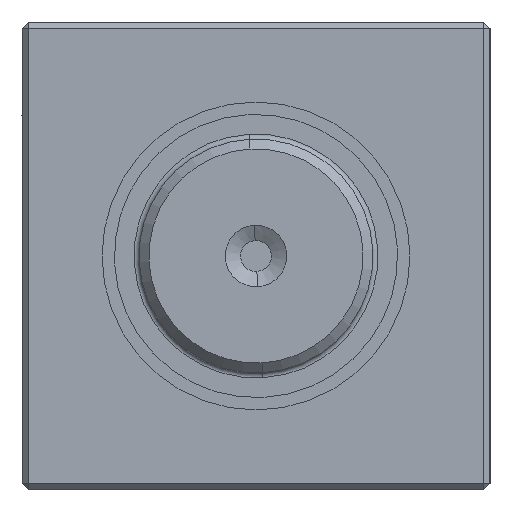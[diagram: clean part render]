
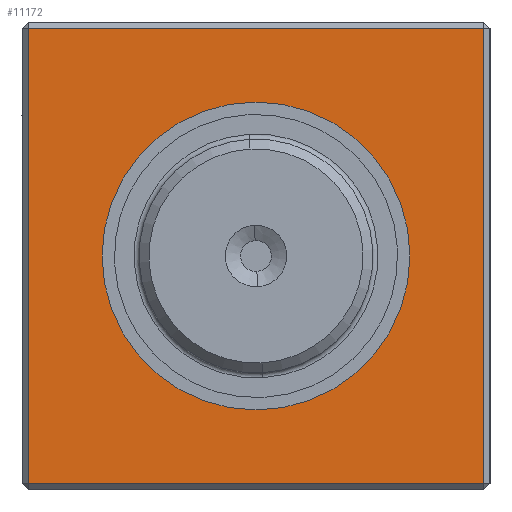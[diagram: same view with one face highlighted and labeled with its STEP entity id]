
A CAD part, left-side view. The second image highlights one B-rep face of the part: STEP entity #11172.
In plain terms, the highlighted planar face has unit normal (-1, 0, 0).
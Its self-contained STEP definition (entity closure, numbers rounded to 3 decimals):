
#8367 = EDGE_CURVE ( 'NONE', #12085, #12086, #23286, .T. ) ;
#8490 = EDGE_CURVE ( 'NONE', #9321, #9320, #34383, .T. ) ;
#8491 = EDGE_CURVE ( 'NONE', #9322, #9321, #34386, .T. ) ;
#8492 = EDGE_CURVE ( 'NONE', #9320, #9319, #34389, .T. ) ;
#8493 = EDGE_CURVE ( 'NONE', #9319, #9322, #34392, .T. ) ;
#8494 = EDGE_CURVE ( 'NONE', #12086, #12085, #23336, .T. ) ;
#9319 = VERTEX_POINT ( 'NONE', #34777 ) ;
#9320 = VERTEX_POINT ( 'NONE', #34778 ) ;
#9321 = VERTEX_POINT ( 'NONE', #34779 ) ;
#9322 = VERTEX_POINT ( 'NONE', #34780 ) ;
#10771 = ORIENTED_EDGE ( 'NONE', *, *, #8491, .T. ) ;
#10772 = ORIENTED_EDGE ( 'NONE', *, *, #8492, .T. ) ;
#10773 = ORIENTED_EDGE ( 'NONE', *, *, #8490, .T. ) ;
#10774 = ORIENTED_EDGE ( 'NONE', *, *, #8493, .T. ) ;
#10776 = ORIENTED_EDGE ( 'NONE', *, *, #8494, .F. ) ;
#10778 = ORIENTED_EDGE ( 'NONE', *, *, #8367, .F. ) ;
#11172 = ADVANCED_FACE ( 'NONE', ( #30027, #30032 ), #35238, .F. ) ;
#12008 = EDGE_LOOP ( 'NONE', ( #10771, #10773, #10772, #10774 ) ) ;
#12009 = EDGE_LOOP ( 'NONE', ( #10776, #10778 ) ) ;
#12085 = VERTEX_POINT ( 'NONE', #37334 ) ;
#12086 = VERTEX_POINT ( 'NONE', #37335 ) ;
#23286 = CIRCLE ( 'NONE', #29526, 12.5 ) ;
#23336 = CIRCLE ( 'NONE', #29641, 12.5 ) ;
#29526 = AXIS2_PLACEMENT_3D ( 'NONE', #33913, #33914, #33915 ) ;
#29641 = AXIS2_PLACEMENT_3D ( 'NONE', #34382, #34395, #34396 ) ;
#29642 = VECTOR ( 'NONE', #34385, 1000. ) ;
#29643 = VECTOR ( 'NONE', #34388, 1000. ) ;
#29644 = VECTOR ( 'NONE', #34391, 1000. ) ;
#29646 = VECTOR ( 'NONE', #34394, 1000. ) ;
#30027 = FACE_OUTER_BOUND ( 'NONE', #12008, .T. ) ;
#30032 = FACE_BOUND ( 'NONE', #12009, .T. ) ;
#30034 = AXIS2_PLACEMENT_3D ( 'NONE', #35239, #35240, #35241 ) ;
#33913 = CARTESIAN_POINT ( 'NONE',  ( 0., 0., 0. ) ) ;
#33914 = DIRECTION ( 'NONE',  ( -1., 0., 0. ) ) ;
#33915 = DIRECTION ( 'NONE',  ( 0., -1., 0. ) ) ;
#34382 = CARTESIAN_POINT ( 'NONE',  ( 0., 0., 0. ) ) ;
#34383 = LINE ( 'NONE', #34384, #29642 ) ;
#34384 = CARTESIAN_POINT ( 'NONE',  ( 0., -18.5, 19. ) ) ;
#34385 = DIRECTION ( 'NONE',  ( 0., 0., 1. ) ) ;
#34386 = LINE ( 'NONE', #34387, #29643 ) ;
#34387 = CARTESIAN_POINT ( 'NONE',  ( 0., -19., -18.5 ) ) ;
#34388 = DIRECTION ( 'NONE',  ( 0., -1., 0. ) ) ;
#34389 = LINE ( 'NONE', #34390, #29644 ) ;
#34390 = CARTESIAN_POINT ( 'NONE',  ( 0., -19., 18.5 ) ) ;
#34391 = DIRECTION ( 'NONE',  ( 0., 1., 0. ) ) ;
#34392 = LINE ( 'NONE', #34393, #29646 ) ;
#34393 = CARTESIAN_POINT ( 'NONE',  ( 0., 18.5, 19. ) ) ;
#34394 = DIRECTION ( 'NONE',  ( 0., 0., -1. ) ) ;
#34395 = DIRECTION ( 'NONE',  ( -1., 0., 0. ) ) ;
#34396 = DIRECTION ( 'NONE',  ( 0., -1., 0. ) ) ;
#34777 = CARTESIAN_POINT ( 'NONE',  ( 0., 18.5, 18.5 ) ) ;
#34778 = CARTESIAN_POINT ( 'NONE',  ( 0., -18.5, 18.5 ) ) ;
#34779 = CARTESIAN_POINT ( 'NONE',  ( 0., -18.5, -18.5 ) ) ;
#34780 = CARTESIAN_POINT ( 'NONE',  ( 0., 18.5, -18.5 ) ) ;
#35238 = PLANE ( 'NONE',  #30034 ) ;
#35239 = CARTESIAN_POINT ( 'NONE',  ( 0., -19., 19. ) ) ;
#35240 = DIRECTION ( 'NONE',  ( 1., 0., 0. ) ) ;
#35241 = DIRECTION ( 'NONE',  ( 0., 0., -1. ) ) ;
#37334 = CARTESIAN_POINT ( 'NONE',  ( 0., 12.5, 0. ) ) ;
#37335 = CARTESIAN_POINT ( 'NONE',  ( 0., -12.5, 0. ) ) ;
